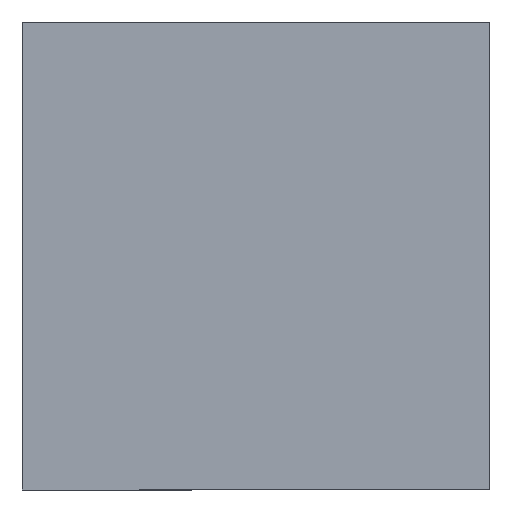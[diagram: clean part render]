
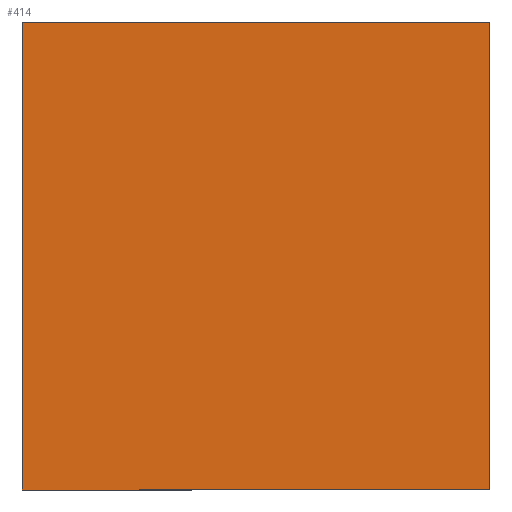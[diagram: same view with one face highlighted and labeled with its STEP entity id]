
A CAD part, left-side view. The second image highlights one B-rep face of the part: STEP entity #414.
In plain terms, the highlighted planar face has unit normal (-1, 0, 0).
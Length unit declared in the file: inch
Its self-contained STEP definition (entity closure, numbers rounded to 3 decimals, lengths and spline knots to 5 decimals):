
#375=CARTESIAN_POINT('',(3.,0.,-142.9266));
#376=DIRECTION('',(-1.0,0.0,0.0));
#377=DIRECTION('',(0.0,-1.0,0.0));
#378=AXIS2_PLACEMENT_3D('',#375,#376,#377);
#379=PLANE('',#378);
#380=CARTESIAN_POINT('',(3.,-660.,-142.9266));
#381=VERTEX_POINT('',#380);
#382=CARTESIAN_POINT('',(3.0,-660.,517.0734));
#383=VERTEX_POINT('',#382);
#384=CARTESIAN_POINT('',(3.,-660.,-142.9266));
#385=DIRECTION('',(0.0,0.0,1.0));
#386=VECTOR('',#385,660.);
#387=LINE('',#384,#386);
#388=EDGE_CURVE('',#381,#383,#387,.T.);
#389=ORIENTED_EDGE('',*,*,#388,.T.);
#390=CARTESIAN_POINT('',(3.0,0.,517.0734));
#391=VERTEX_POINT('',#390);
#392=CARTESIAN_POINT('',(3.0,0.,517.0734));
#393=DIRECTION('',(0.0,-1.0,0.0));
#394=VECTOR('',#393,660.);
#395=LINE('',#392,#394);
#396=EDGE_CURVE('',#391,#383,#395,.T.);
#397=ORIENTED_EDGE('',*,*,#396,.F.);
#398=CARTESIAN_POINT('',(3.,0.,-142.9266));
#399=VERTEX_POINT('',#398);
#400=CARTESIAN_POINT('',(3.0,0.,517.0734));
#401=DIRECTION('',(0.0,0.0,-1.0));
#402=VECTOR('',#401,660.);
#403=LINE('',#400,#402);
#404=EDGE_CURVE('',#391,#399,#403,.T.);
#405=ORIENTED_EDGE('',*,*,#404,.T.);
#406=CARTESIAN_POINT('',(3.,0.,-142.9266));
#407=DIRECTION('',(0.0,-1.0,0.0));
#408=VECTOR('',#407,660.);
#409=LINE('',#406,#408);
#410=EDGE_CURVE('',#399,#381,#409,.T.);
#411=ORIENTED_EDGE('',*,*,#410,.T.);
#412=EDGE_LOOP('',(#389,#397,#405,#411));
#413=FACE_OUTER_BOUND('',#412,.T.);
#414=ADVANCED_FACE('',(#413),#379,.T.);
